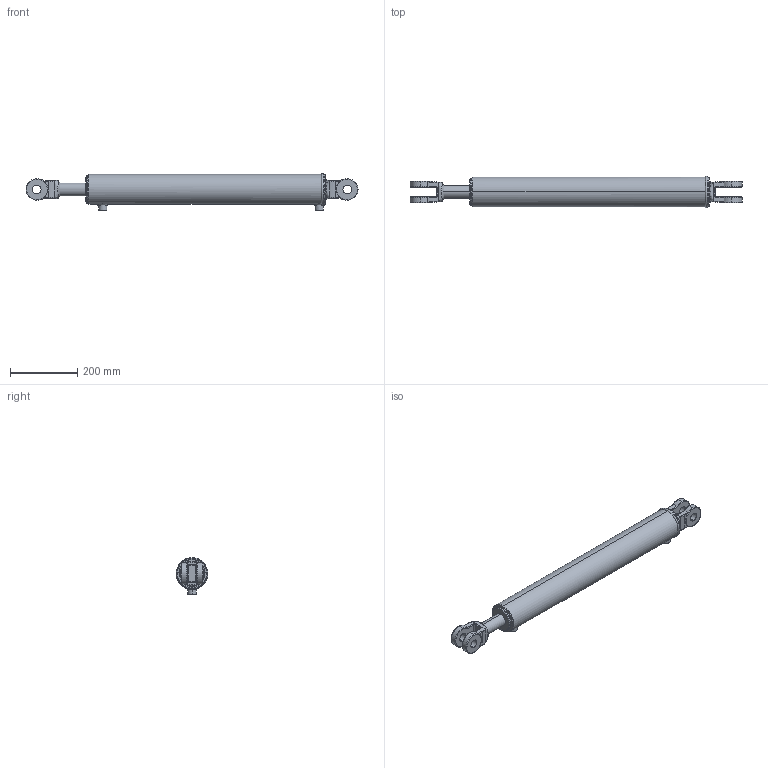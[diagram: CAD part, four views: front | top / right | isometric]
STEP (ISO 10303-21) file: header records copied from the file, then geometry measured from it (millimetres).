
FILE_DESCRIPTION (( 'STEP AP203' ), '1' );
FILE_NAME ('CL-CL300150x610 (24).STEP', '2014-11-21T23:34:36', ( '' ), ( '' ), 'SwSTEP 2.0', 'SolidWorks 2014', '' );
FILE_SCHEMA (( 'CONFIG_CONTROL_DESIGN' ));
Length unit declared in the file: millimetre
Products named in the file (4): SPARE 6_24x1.5; CL-CL300150x610 (24); CL-CL300150x  body_3x24; 3 in ext circlip
Assembly tree (3 placements, depth 2):
  CL-CL300150x610 (24)
    CL-CL300150x  body_3x24
    3 in ext circlip
    SPARE 6_24x1.5
Bounding box: 984.39 x 94.87 x 109.9 mm (x, y, z)
Volume: 4973672.9 mm3; surface area: 430312.7 mm2
Topology: 3 solids, 3 shells, 212 faces, 515 edges, 316 vertices
Faces by surface type: cylinder 92, bspline 61, plane 37, torus 14, cone 8
Entity records: 11771 total; most frequent: CARTESIAN_POINT 6695, ORIENTED_EDGE 1022, DIRECTION 943, EDGE_CURVE 511, AXIS2_PLACEMENT_3D 393, VERTEX_POINT 316, CIRCLE 236, EDGE_LOOP 235
